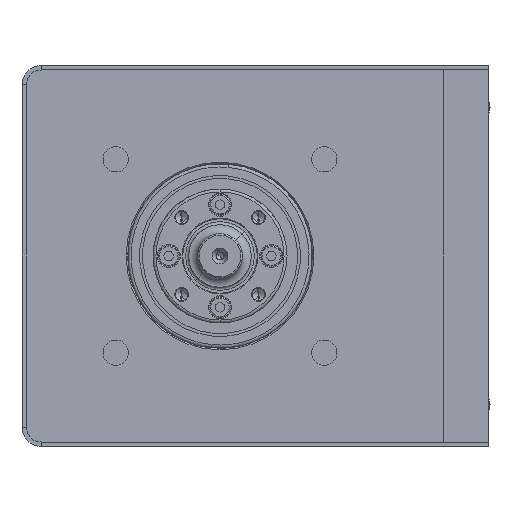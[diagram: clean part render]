
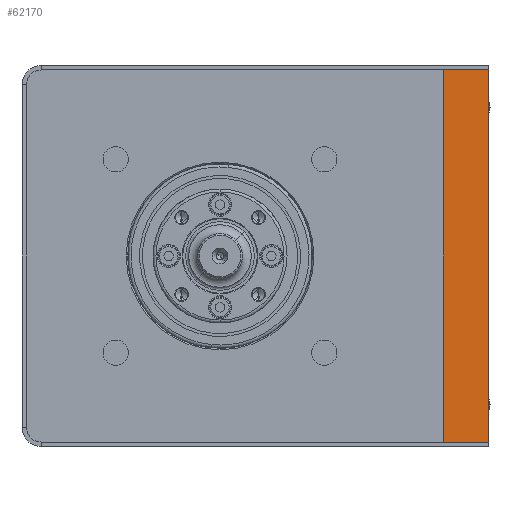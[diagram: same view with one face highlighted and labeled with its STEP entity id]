
A CAD part, left-side view. The second image highlights one B-rep face of the part: STEP entity #62170.
In plain terms, the highlighted planar face has unit normal (-1, 0, 0).
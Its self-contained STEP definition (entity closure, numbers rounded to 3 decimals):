
#1133 = DIRECTION ( 'NONE',  ( 0., -1., 0. ) ) ;
#1380 = VERTEX_POINT ( 'NONE', #43395 ) ;
#2996 = CARTESIAN_POINT ( 'NONE',  ( -246., 0., -62.5 ) ) ;
#5326 = PLANE ( 'NONE',  #57922 ) ;
#8642 = LINE ( 'NONE', #145115, #95062 ) ;
#9707 = VERTEX_POINT ( 'NONE', #60589 ) ;
#10438 = ORIENTED_EDGE ( 'NONE', *, *, #85964, .T. ) ;
#10733 = VERTEX_POINT ( 'NONE', #85430 ) ;
#12255 = ORIENTED_EDGE ( 'NONE', *, *, #75148, .F. ) ;
#18186 = CARTESIAN_POINT ( 'NONE',  ( -246., 15., -62.5 ) ) ;
#18686 = CARTESIAN_POINT ( 'NONE',  ( -246., 15., -62.5 ) ) ;
#27003 = CARTESIAN_POINT ( 'NONE',  ( -246., 0., -62.5 ) ) ;
#29960 = VERTEX_POINT ( 'NONE', #27003 ) ;
#43395 = CARTESIAN_POINT ( 'NONE',  ( -246., 0., 62.5 ) ) ;
#43536 = DIRECTION ( 'NONE',  ( 0., 0., -1. ) ) ;
#44018 = LINE ( 'NONE', #2996, #134118 ) ;
#52034 = VECTOR ( 'NONE', #100025, 1000. ) ;
#57922 = AXIS2_PLACEMENT_3D ( 'NONE', #18686, #103542, #43536 ) ;
#60589 = CARTESIAN_POINT ( 'NONE',  ( -246., 15., -62.5 ) ) ;
#62170 = ADVANCED_FACE ( 'NONE', ( #141872 ), #5326, .F. ) ;
#66636 = ORIENTED_EDGE ( 'NONE', *, *, #142976, .F. ) ;
#67951 = EDGE_CURVE ( 'NONE', #9707, #29960, #93897, .T. ) ;
#75042 = LINE ( 'NONE', #150911, #52034 ) ;
#75148 = EDGE_CURVE ( 'NONE', #10733, #1380, #8642, .T. ) ;
#82194 = ORIENTED_EDGE ( 'NONE', *, *, #67951, .T. ) ;
#85430 = CARTESIAN_POINT ( 'NONE',  ( -246., 15., 62.5 ) ) ;
#85964 = EDGE_CURVE ( 'NONE', #29960, #1380, #44018, .T. ) ;
#93897 = LINE ( 'NONE', #18186, #138024 ) ;
#95062 = VECTOR ( 'NONE', #1133, 1000. ) ;
#100025 = DIRECTION ( 'NONE',  ( 0., 0., 1. ) ) ;
#102522 = DIRECTION ( 'NONE',  ( 0., -1., 0. ) ) ;
#103542 = DIRECTION ( 'NONE',  ( 1., 0., 0. ) ) ;
#114952 = EDGE_LOOP ( 'NONE', ( #10438, #12255, #66636, #82194 ) ) ;
#134118 = VECTOR ( 'NONE', #152140, 1000. ) ;
#138024 = VECTOR ( 'NONE', #102522, 1000. ) ;
#141872 = FACE_OUTER_BOUND ( 'NONE', #114952, .T. ) ;
#142976 = EDGE_CURVE ( 'NONE', #9707, #10733, #75042, .T. ) ;
#145115 = CARTESIAN_POINT ( 'NONE',  ( -246., 15., 62.5 ) ) ;
#150911 = CARTESIAN_POINT ( 'NONE',  ( -246., 15., -62.5 ) ) ;
#152140 = DIRECTION ( 'NONE',  ( 0., 0., 1. ) ) ;
